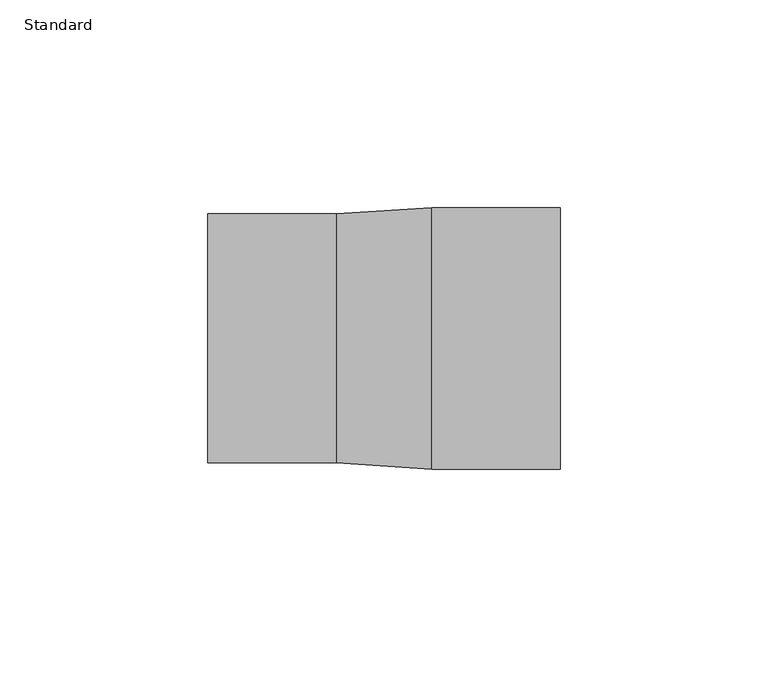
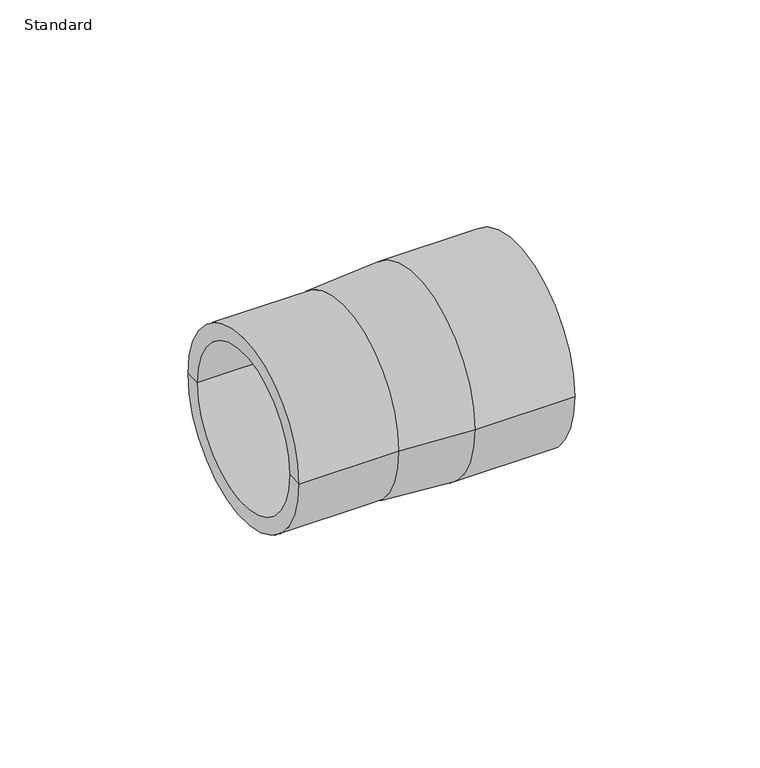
"""IFC4 building model written with IfcOpenShell, lengths in millimetres: pipe fitting geometry, Durapipe_PipeFitting_PVC_Reducers : Standard."""

from ifc_helpers import new_model, si_unit, frame, origin, place, context, project, spatial, polyline, circle_curve, source, transform, mapped, element, save
from ifc_brep_helpers import plane_surface, cylinder_surface, revolved_surface, advanced_brep


def standard_abec5e11(model_context):
    return source(origin(), model_context, "Body", "AdvancedBrep", [
        advanced_brep(
        [(-42.5, -30.0, 0.0), (-42.5, 30.0, 0.0), (-11.5, 30.0, 0.0), (-11.5, -30.0, 0.0), (-42.5, -25.0, 0.0), (-42.5, 25.0, 0.0), (42.5, -31.5, 0.0), (42.5, 31.5, 0.0), (42.5, 25.0, 0.0), (42.5, -25.0, 0.0), (11.5, -31.5, 0.0), (11.5, 31.5, 0.0), (-11.5, -25.0, 0.0), (-11.5, 25.0, 0.0), (-11.5, 0.0, 0.0), (11.5, -25.0, 0.0), (11.5, 25.0, 0.0), (11.5, 0.0, 0.0)],
        [
            (0, 1, circle_curve(frame((-42.5, 0.0, 0.0), z_axis=(1.0, 0.0, 0.0), x_axis=(0.0, 1.0, 0.0)), 30.0)),
            (1, 2),
            (2, 3, circle_curve(frame((-11.5, 0.0, 0.0), z_axis=(-1.0, 0.0, 0.0), x_axis=(0.0, 1.0, 0.0)), 30.0)),
            (3, 0),
            (1, 0, circle_curve(frame((-42.5, 0.0, 0.0), z_axis=(1.0, 0.0, 0.0), x_axis=(0.0, 1.0, 0.0)), 30.0)),
            (3, 2, circle_curve(frame((-11.5, 0.0, 0.0), z_axis=(-1.0, 0.0, 0.0), x_axis=(0.0, 1.0, 0.0)), 30.0)),
            (4, 5, circle_curve(frame((-42.5, 0.0, 0.0), z_axis=(1.0, 0.0, 0.0), x_axis=(0.0, 1.0, 0.0)), 25.0)),
            (5, 1),
            (0, 4),
            (5, 4, circle_curve(frame((-42.5, 0.0, 0.0), z_axis=(1.0, 0.0, 0.0), x_axis=(0.0, 1.0, 0.0)), 25.0)),
            (6, 7, circle_curve(frame((42.5, 0.0, 0.0), z_axis=(1.0, 0.0, 0.0), x_axis=(0.0, 1.0, 0.0)), 31.5)),
            (7, 8),
            (8, 9, circle_curve(frame((42.5, 0.0, 0.0), z_axis=(-1.0, 0.0, 0.0), x_axis=(0.0, 1.0, 0.0)), 25.0)),
            (9, 6),
            (7, 6, circle_curve(frame((42.5, 0.0, 0.0), z_axis=(1.0, 0.0, 0.0), x_axis=(0.0, 1.0, 0.0)), 31.5)),
            (9, 8, circle_curve(frame((42.5, 0.0, 0.0), z_axis=(-1.0, 0.0, 0.0), x_axis=(0.0, 1.0, 0.0)), 25.0)),
            (10, 11, circle_curve(frame((11.5, 0.0, 0.0), z_axis=(1.0, 0.0, 0.0), x_axis=(0.0, 1.0, 0.0)), 31.5)),
            (11, 7),
            (6, 10),
            (11, 10, circle_curve(frame((11.5, 0.0, 0.0), z_axis=(1.0, 0.0, 0.0), x_axis=(0.0, 1.0, 0.0)), 31.5)),
            (2, 11),
            (10, 3),
            (12, 13, circle_curve(frame((-11.5, 0.0, 0.0), z_axis=(1.0, 0.0, 0.0), x_axis=(0.0, 1.0, 0.0)), 25.0)),
            (13, 5),
            (4, 12),
            (13, 12, circle_curve(frame((-11.5, 0.0, 0.0), z_axis=(1.0, 0.0, 0.0), x_axis=(0.0, 1.0, 0.0)), 25.0)),
            (14, 13),
            (12, 14),
            (15, 16, circle_curve(frame((11.5, 0.0, 0.0), z_axis=(1.0, 0.0, 0.0), x_axis=(0.0, 1.0, 0.0)), 25.0)),
            (16, 17),
            (17, 15),
            (16, 15, circle_curve(frame((11.5, 0.0, 0.0), z_axis=(1.0, 0.0, 0.0), x_axis=(0.0, 1.0, 0.0)), 25.0)),
            (8, 16),
            (15, 9),
        ],
        [
            cylinder_surface(frame((-42.5, 0.0, 0.0), z_axis=(-1.0, 0.0, 0.0), x_axis=(0.0, 1.0, 0.0)), 30.0),
            plane_surface(frame((-42.5, 0.0, 0.0), z_axis=(-1.0, 0.0, 0.0), x_axis=(0.0, 1.0, 0.0))),
            plane_surface(frame((42.5, 0.0, 0.0), z_axis=(1.0, 0.0, 0.0), x_axis=(0.0, 1.0, 0.0))),
            cylinder_surface(frame((-42.5, 0.0, 0.0), z_axis=(-1.0, 0.0, 0.0), x_axis=(0.0, 1.0, 0.0)), 31.5),
            revolved_surface(polyline([(11.5, 31.5, 0.0), (-11.5, 30.0, 0.0)]), (-42.5, 0.0, 0.0), (-1.0, 0.0, 0.0)),
            revolved_surface(polyline([(-42.5, 25.0, 0.0), (-11.5, 25.0, 0.0)]), (-42.5, 0.0, 0.0), (-1.0, 0.0, 0.0)),
            plane_surface(frame((-11.5, 0.0, 0.0), z_axis=(-1.0, 0.0, 0.0), x_axis=(0.0, 1.0, 0.0))),
            plane_surface(frame((11.5, 0.0, 0.0), z_axis=(1.0, 0.0, 0.0), x_axis=(0.0, 1.0, 0.0))),
            revolved_surface(polyline([(11.5, 25.0, 0.0), (42.5, 25.0, 0.0)]), (-42.5, 0.0, 0.0), (-1.0, 0.0, 0.0)),
        ],
        [
            (0, [[1, 2, 3, 4]]),
            (0, [[5, -4, 6, -2]]),
            (1, [[7, 8, -1, 9]]),
            (1, [[10, -9, -5, -8]]),
            (2, [[11, 12, 13, 14]]),
            (2, [[15, -14, 16, -12]]),
            (3, [[17, 18, -11, 19]]),
            (3, [[20, -19, -15, -18]]),
            (4, [[-3, 21, -17, 22]]),
            (4, [[-6, -22, -20, -21]]),
            (5, [[23, 24, -7, 25]]),
            (5, [[26, -25, -10, -24]]),
            (6, [[27, -23, 28]]),
            (6, [[-28, -26, -27]]),
            (7, [[29, 30, 31]]),
            (7, [[32, -31, -30]]),
            (8, [[-13, 33, -29, 34]]),
            (8, [[-16, -34, -32, -33]]),
        ],
    ),
    ])


if __name__ == "__main__":
    model = new_model("IFC4")
    model_context = context("Model", 3, world=origin())
    ifc_project = project(units=[si_unit("LENGTHUNIT", "METRE", prefix="MILLI")], contexts=[model_context])
    site = spatial("IfcSite", under=ifc_project)
    building = spatial("IfcBuilding", under=site)
    placement = place(None, origin())
    standard_shape = standard_abec5e11(model_context)
    element("IfcPipeFitting", 1, ObjectType="Durapipe_PipeFitting_PVC_Reducers : Standard", at=placement, inside=building, context=model_context, shape_type="MappedRepresentation", body=[
        mapped(standard_shape, transform((0.0, 0.0, 0.0), x_axis=(1.0, 0.0, 0.0), y_axis=(0.0, 1.0, 0.0), z_axis=(0.0, 0.0, 1.0))),
    ])
    save(model, "model.ifc")
